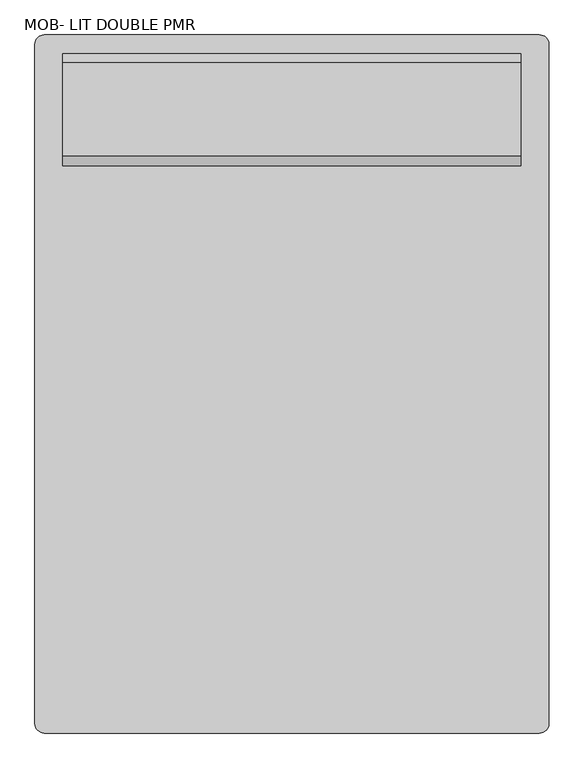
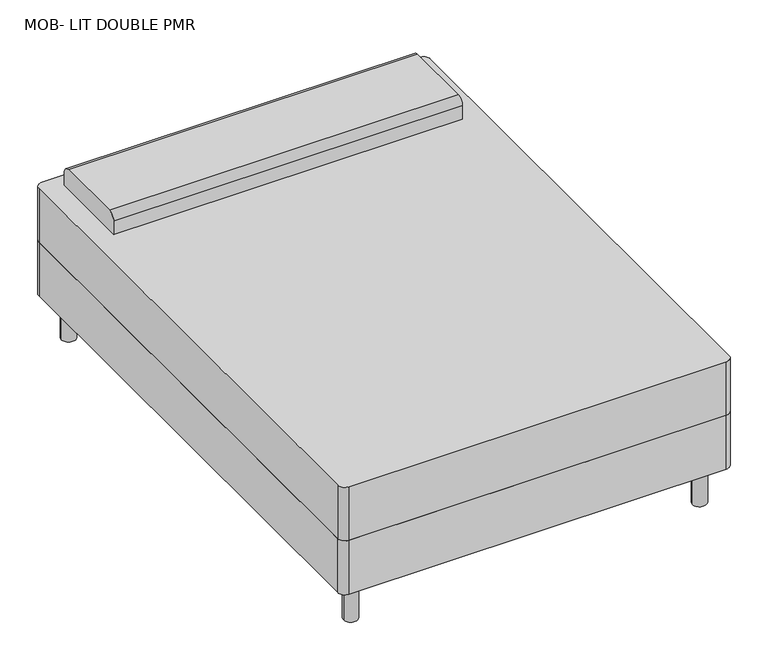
"""IFC4 building model written with IfcOpenShell, lengths in millimetres: furniture geometry, MOB- LIT DOUBLE PMR : 190x140 cm _V1."""

from ifc_helpers import new_model, si_unit, point, frame, frame_2d, origin, origin_with_axes, place, context, project, spatial, polyline, circle_curve, trimmed, segment, composite_curve, outline, extrude, source, transform, mapped, element, save


def mob_lit_double_pmr_843ff842(model_context):
    return source(origin(), model_context, "Body", "SweptSolid", [
        extrude(outline(composite_curve([segment(polyline([(-428.5114754, -970.195082), (-428.5114754, 879.004918)]), True, "CONTINUOUS"), segment(trimmed(circle_curve(frame_2d((-403.1114754, 879.004918)), 25.4), [point((-428.5114754, 879.004918))], [point((-403.1114754, 904.404918))], False, "CARTESIAN"), True, "CONTINUOUS"), segment(polyline([(-403.1114754, 904.404918), (946.0885246, 904.404918)]), True, "CONTINUOUS"), segment(trimmed(circle_curve(frame_2d((946.0885246, 879.004918)), 25.4), [point((946.0885246, 904.404918))], [point((971.4885246, 879.004918))], False, "CARTESIAN"), True, "CONTINUOUS"), segment(polyline([(971.4885246, 879.004918), (971.4885246, -970.195082)]), True, "CONTINUOUS"), segment(trimmed(circle_curve(frame_2d((946.0885246, -970.195082)), 25.4), [point((971.4885246, -970.195082))], [point((946.0885246, -995.595082))], False, "CARTESIAN"), True, "CONTINUOUS"), segment(polyline([(946.0885246, -995.595082), (-403.1114754, -995.595082)]), True, "CONTINUOUS"), segment(trimmed(circle_curve(frame_2d((-403.1114754, -970.195082)), 25.4), [point((-403.1114754, -995.595082))], [point((-428.5114754, -970.195082))], False, "CARTESIAN"), True, "CONTINUOUS")], self_intersect=False)), frame((0.0, 0.0, 152.4), z_axis=(0.0, 0.0, 1.0), x_axis=(1.0, 0.0, 0.0)), (0.0, 0.0, 1.0), 203.2),
        extrude(outline(composite_curve([segment(polyline([(548.804918, 558.8), (548.804918, 609.6)]), True, "CONTINUOUS"), segment(trimmed(circle_curve(frame_2d((574.204918, 609.6)), 25.4), [point((548.804918, 609.6))], [point((574.204918, 635.0))], False, "CARTESIAN"), True, "CONTINUOUS"), segment(polyline([(574.204918, 635.0), (828.204918, 635.0)]), True, "CONTINUOUS"), segment(trimmed(circle_curve(frame_2d((828.204918, 609.6)), 25.4), [point((828.204918, 635.0))], [point((853.604918, 609.6))], False, "CARTESIAN"), True, "CONTINUOUS"), segment(polyline([(853.604918, 609.6), (853.604918, 558.8), (548.804918, 558.8)]), True, "CONTINUOUS")], self_intersect=False)), frame((-352.3114754, 0.0, 0.0), z_axis=(1.0, 0.0, 0.0), x_axis=(0.0, 1.0, 0.0)), (0.0, 0.0, 1.0), 1247.6),
        extrude(outline(composite_curve([segment(trimmed(circle_curve(frame_2d((-352.3114754, 828.204918)), 25.4), [point((-377.7114754, 828.204918))], [point((-326.9114754, 828.204918))], False, "CARTESIAN"), True, "CONTINUOUS"), segment(trimmed(circle_curve(frame_2d((-352.3114754, 828.204918)), 25.4), [point((-326.9114754, 828.204918))], [point((-377.7114754, 828.204918))], False, "CARTESIAN"), True, "CONTINUOUS")], self_intersect=False)), origin_with_axes(), (0.0, 0.0, 1.0), 152.4),
        extrude(outline(composite_curve([segment(trimmed(circle_curve(frame_2d((895.2885246, 828.204918)), 25.4), [point((869.8885246, 828.204918))], [point((920.6885246, 828.204918))], False, "CARTESIAN"), True, "CONTINUOUS"), segment(trimmed(circle_curve(frame_2d((895.2885246, 828.204918)), 25.4), [point((920.6885246, 828.204918))], [point((869.8885246, 828.204918))], False, "CARTESIAN"), True, "CONTINUOUS")], self_intersect=False)), origin_with_axes(), (0.0, 0.0, 1.0), 152.4),
        extrude(outline(composite_curve([segment(trimmed(circle_curve(frame_2d((895.2885246, -919.395082)), 25.4), [point((869.8885246, -919.395082))], [point((920.6885246, -919.395082))], False, "CARTESIAN"), True, "CONTINUOUS"), segment(trimmed(circle_curve(frame_2d((895.2885246, -919.395082)), 25.4), [point((920.6885246, -919.395082))], [point((869.8885246, -919.395082))], False, "CARTESIAN"), True, "CONTINUOUS")], self_intersect=False)), origin_with_axes(), (0.0, 0.0, 1.0), 152.4),
        extrude(outline(composite_curve([segment(trimmed(circle_curve(frame_2d((-352.3114754, -919.395082)), 25.4), [point((-377.7114754, -919.395082))], [point((-326.9114754, -919.395082))], False, "CARTESIAN"), True, "CONTINUOUS"), segment(trimmed(circle_curve(frame_2d((-352.3114754, -919.395082)), 25.4), [point((-326.9114754, -919.395082))], [point((-377.7114754, -919.395082))], False, "CARTESIAN"), True, "CONTINUOUS")], self_intersect=False)), origin_with_axes(), (0.0, 0.0, 1.0), 152.4),
        extrude(outline(composite_curve([segment(polyline([(-403.1114754, 904.404918), (946.0885246, 904.404918)]), True, "CONTINUOUS"), segment(trimmed(circle_curve(frame_2d((946.0885246, 879.004918)), 25.4), [point((946.0885246, 904.404918))], [point((971.4885246, 879.004918))], False, "CARTESIAN"), True, "CONTINUOUS"), segment(polyline([(971.4885246, 879.004918), (971.4885246, -970.195082)]), True, "CONTINUOUS"), segment(trimmed(circle_curve(frame_2d((946.0885246, -970.195082)), 25.4), [point((971.4885246, -970.195082))], [point((946.0885246, -995.595082))], False, "CARTESIAN"), True, "CONTINUOUS"), segment(polyline([(946.0885246, -995.595082), (-403.1114754, -995.595082)]), True, "CONTINUOUS"), segment(trimmed(circle_curve(frame_2d((-403.1114754, -970.195082)), 25.4), [point((-403.1114754, -995.595082))], [point((-428.5114754, -970.195082))], False, "CARTESIAN"), True, "CONTINUOUS"), segment(polyline([(-428.5114754, -970.195082), (-428.5114754, 879.004918)]), True, "CONTINUOUS"), segment(trimmed(circle_curve(frame_2d((-403.1114754, 879.004918)), 25.4), [point((-428.5114754, 879.004918))], [point((-403.1114754, 904.404918))], False, "CARTESIAN"), True, "CONTINUOUS")], self_intersect=False)), frame((0.0, 0.0, 355.6), z_axis=(0.0, 0.0, 1.0), x_axis=(1.0, 0.0, 0.0)), (0.0, 0.0, 1.0), 203.2),
    ])


if __name__ == "__main__":
    model = new_model("IFC4")
    model_context = context("Model", 3, world=origin())
    ifc_project = project(units=[si_unit("LENGTHUNIT", "METRE", prefix="MILLI")], contexts=[model_context])
    site = spatial("IfcSite", under=ifc_project)
    building = spatial("IfcBuilding", under=site)
    placement = place(None, origin())
    mob_lit_double_pmr_shape = mob_lit_double_pmr_843ff842(model_context)
    element("IfcFurniture", 1, ObjectType="MOB- LIT DOUBLE PMR : 190x140 cm _V1", at=placement, inside=building, context=model_context, shape_type="MappedRepresentation", body=[
        mapped(mob_lit_double_pmr_shape, transform((0.0, 0.0, 0.0), x_axis=(1.0, 0.0, 0.0), y_axis=(0.0, 1.0, 0.0), z_axis=(0.0, 0.0, 1.0))),
    ])
    save(model, "model.ifc")
